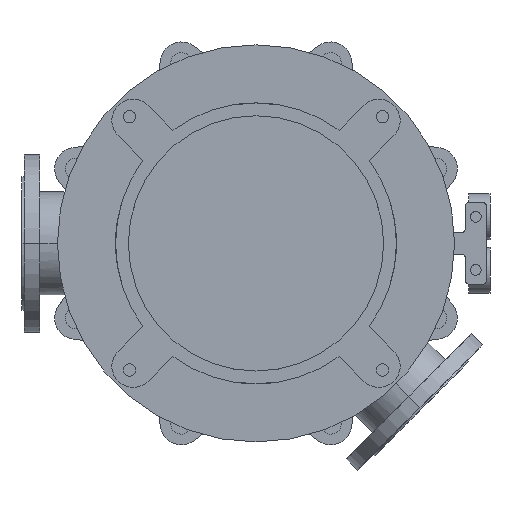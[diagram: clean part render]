
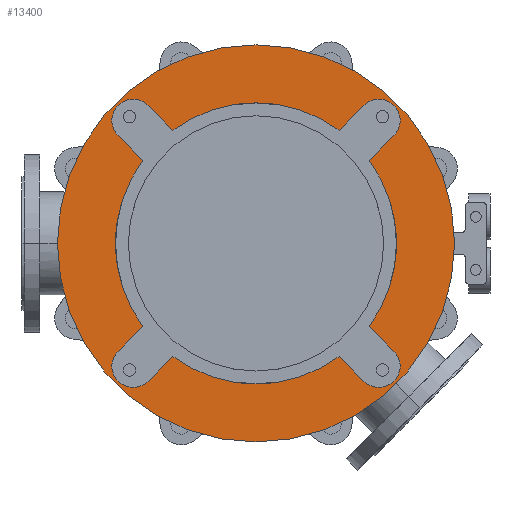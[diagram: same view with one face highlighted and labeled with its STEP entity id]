
A CAD part, front view. The second image highlights one B-rep face of the part: STEP entity #13400.
In plain terms, the highlighted planar face has unit normal (0, -1, 0).
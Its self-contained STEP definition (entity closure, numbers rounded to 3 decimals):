
#3014=CARTESIAN_POINT('',(0.,-25.,0.));
#3015=DIRECTION('',(0.,1.,0.));
#3016=DIRECTION('',(0.592,0.,-0.806));
#3017=AXIS2_PLACEMENT_3D('',#3014,#3015,#3016);
#3032=CARTESIAN_POINT('',(0.,-25.,0.));
#3033=DIRECTION('',(0.,1.,0.));
#3034=DIRECTION('',(0.806,0.,0.592));
#3035=AXIS2_PLACEMENT_3D('',#3032,#3033,#3034);
#3059=CARTESIAN_POINT('',(0.,-25.,0.));
#3060=DIRECTION('',(0.,1.,0.));
#3061=DIRECTION('',(-0.806,0.,-0.592));
#3062=AXIS2_PLACEMENT_3D('',#3059,#3060,#3061);
#3068=CARTESIAN_POINT('',(0.,-25.,0.));
#3069=DIRECTION('',(0.,1.,0.));
#3070=DIRECTION('',(-0.592,0.,0.806));
#3071=AXIS2_PLACEMENT_3D('',#3068,#3069,#3070);
#3246=CARTESIAN_POINT('',(0.,-25.,0.));
#3247=DIRECTION('',(0.,-1.,0.));
#3248=DIRECTION('',(-1.,0.,0.));
#3249=AXIS2_PLACEMENT_3D('',#3246,#3247,#3248);
#3251=CARTESIAN_POINT('',(0.,-25.,0.));
#3252=DIRECTION('',(0.,1.,0.));
#3253=DIRECTION('',(-1.,0.,0.));
#3254=AXIS2_PLACEMENT_3D('',#3251,#3252,#3253);
#3256=CARTESIAN_POINT('',(-173.241,-25.,173.241));
#3257=DIRECTION('',(0.,-1.,0.));
#3258=DIRECTION('',(0.707,0.,0.707));
#3259=AXIS2_PLACEMENT_3D('',#3256,#3257,#3258);
#3261=DIRECTION('',(0.707,0.,-0.707));
#3262=VECTOR('',#3261,49.286);
#3263=CARTESIAN_POINT('',(-194.454,-25.,152.028));
#3264=LINE('',#3263,#3262);
#3265=DIRECTION('',(-0.707,0.,-0.707));
#3266=VECTOR('',#3265,49.286);
#3267=CARTESIAN_POINT('',(-159.604,-25.,-117.178));
#3268=LINE('',#3267,#3266);
#3269=CARTESIAN_POINT('',(-173.241,-25.,-173.241));
#3270=DIRECTION('',(0.,-1.,0.));
#3271=DIRECTION('',(-0.707,0.,0.707));
#3272=AXIS2_PLACEMENT_3D('',#3269,#3270,#3271);
#3274=DIRECTION('',(0.707,0.,0.707));
#3275=VECTOR('',#3274,49.286);
#3276=CARTESIAN_POINT('',(-152.028,-25.,-194.454));
#3277=LINE('',#3276,#3275);
#3278=DIRECTION('',(0.707,0.,-0.707));
#3279=VECTOR('',#3278,49.286);
#3280=CARTESIAN_POINT('',(117.178,-25.,-159.604));
#3281=LINE('',#3280,#3279);
#3282=CARTESIAN_POINT('',(173.241,-25.,-173.241));
#3283=DIRECTION('',(0.,-1.,0.));
#3284=DIRECTION('',(-0.707,0.,-0.707));
#3285=AXIS2_PLACEMENT_3D('',#3282,#3283,#3284);
#3287=DIRECTION('',(-0.707,0.,0.707));
#3288=VECTOR('',#3287,49.286);
#3289=CARTESIAN_POINT('',(194.454,-25.,-152.028));
#3290=LINE('',#3289,#3288);
#3291=DIRECTION('',(0.707,0.,0.707));
#3292=VECTOR('',#3291,49.286);
#3293=CARTESIAN_POINT('',(159.604,-25.,117.178));
#3294=LINE('',#3293,#3292);
#3295=CARTESIAN_POINT('',(173.241,-25.,173.241));
#3296=DIRECTION('',(0.,-1.,0.));
#3297=DIRECTION('',(0.707,0.,-0.707));
#3298=AXIS2_PLACEMENT_3D('',#3295,#3296,#3297);
#3300=DIRECTION('',(-0.707,0.,-0.707));
#3301=VECTOR('',#3300,49.286);
#3302=CARTESIAN_POINT('',(152.028,-25.,194.454));
#3303=LINE('',#3302,#3301);
#3304=DIRECTION('',(-0.707,0.,0.707));
#3305=VECTOR('',#3304,49.286);
#3306=CARTESIAN_POINT('',(-117.178,-25.,159.604));
#3307=LINE('',#3306,#3305);
#8368=CARTESIAN_POINT('',(-280.,-25.,0.));
#8369=CARTESIAN_POINT('',(280.,-25.,0.));
#8370=VERTEX_POINT('',#8368);
#8371=VERTEX_POINT('',#8369);
#8392=CARTESIAN_POINT('',(-194.454,-25.,-152.028));
#8393=CARTESIAN_POINT('',(-152.028,-25.,-194.454));
#8394=VERTEX_POINT('',#8392);
#8395=VERTEX_POINT('',#8393);
#8396=CARTESIAN_POINT('',(-117.178,-25.,-159.604));
#8397=VERTEX_POINT('',#8396);
#8398=CARTESIAN_POINT('',(-159.604,-25.,-117.178));
#8399=VERTEX_POINT('',#8398);
#8408=CARTESIAN_POINT('',(152.028,-25.,-194.454));
#8409=CARTESIAN_POINT('',(194.454,-25.,-152.028));
#8410=VERTEX_POINT('',#8408);
#8411=VERTEX_POINT('',#8409);
#8412=CARTESIAN_POINT('',(159.604,-25.,-117.178));
#8413=VERTEX_POINT('',#8412);
#8414=CARTESIAN_POINT('',(117.178,-25.,-159.604));
#8415=VERTEX_POINT('',#8414);
#8424=CARTESIAN_POINT('',(194.454,-25.,152.028));
#8425=CARTESIAN_POINT('',(152.028,-25.,194.454));
#8426=VERTEX_POINT('',#8424);
#8427=VERTEX_POINT('',#8425);
#8428=CARTESIAN_POINT('',(117.178,-25.,159.604));
#8429=VERTEX_POINT('',#8428);
#8430=CARTESIAN_POINT('',(159.604,-25.,117.178));
#8431=VERTEX_POINT('',#8430);
#8440=CARTESIAN_POINT('',(-152.028,-25.,194.454));
#8441=CARTESIAN_POINT('',(-194.454,-25.,152.028));
#8442=VERTEX_POINT('',#8440);
#8443=VERTEX_POINT('',#8441);
#8444=CARTESIAN_POINT('',(-159.604,-25.,117.178));
#8445=VERTEX_POINT('',#8444);
#8446=CARTESIAN_POINT('',(-117.178,-25.,159.604));
#8447=VERTEX_POINT('',#8446);
#13360=CARTESIAN_POINT('',(0.,-25.,0.));
#13361=DIRECTION('',(0.,-1.,0.));
#13362=DIRECTION('',(-1.,0.,0.));
#13363=AXIS2_PLACEMENT_3D('',#13360,#13361,#13362);
#13364=PLANE('',#13363);
#13366=ORIENTED_EDGE('',*,*,#13365,.F.);
#13368=ORIENTED_EDGE('',*,*,#13367,.T.);
#13369=EDGE_LOOP('',(#13366,#13368));
#13370=FACE_OUTER_BOUND('',#13369,.F.);
#13372=ORIENTED_EDGE('',*,*,#13371,.T.);
#13374=ORIENTED_EDGE('',*,*,#13373,.T.);
#13375=ORIENTED_EDGE('',*,*,#13313,.F.);
#13377=ORIENTED_EDGE('',*,*,#13376,.T.);
#13379=ORIENTED_EDGE('',*,*,#13378,.T.);
#13381=ORIENTED_EDGE('',*,*,#13380,.T.);
#13382=ORIENTED_EDGE('',*,*,#13266,.F.);
#13383=ORIENTED_EDGE('',*,*,#13350,.T.);
#13385=ORIENTED_EDGE('',*,*,#13384,.T.);
#13387=ORIENTED_EDGE('',*,*,#13386,.T.);
#13388=ORIENTED_EDGE('',*,*,#13287,.F.);
#13390=ORIENTED_EDGE('',*,*,#13389,.T.);
#13392=ORIENTED_EDGE('',*,*,#13391,.T.);
#13394=ORIENTED_EDGE('',*,*,#13393,.T.);
#13395=ORIENTED_EDGE('',*,*,#13331,.F.);
#13397=ORIENTED_EDGE('',*,*,#13396,.T.);
#13398=EDGE_LOOP('',(#13372,#13374,#13375,#13377,#13379,#13381,#13382,#13383,
#13385,#13387,#13388,#13390,#13392,#13394,#13395,#13397));
#13399=FACE_BOUND('',#13398,.F.);
#13400=ADVANCED_FACE('',(#13370,#13399),#13364,.T.);
#3018=CIRCLE('',#3017,198.);
#3036=CIRCLE('',#3035,198.);
#3063=CIRCLE('',#3062,198.);
#3072=CIRCLE('',#3071,198.);
#3250=CIRCLE('',#3249,280.);
#3255=CIRCLE('',#3254,280.);
#3260=CIRCLE('',#3259,30.);
#3273=CIRCLE('',#3272,30.);
#3286=CIRCLE('',#3285,30.);
#3299=CIRCLE('',#3298,30.);
#13266=EDGE_CURVE('',#8415,#8397,#3018,.T.);
#13287=EDGE_CURVE('',#8431,#8413,#3036,.T.);
#13313=EDGE_CURVE('',#8399,#8445,#3063,.T.);
#13331=EDGE_CURVE('',#8447,#8429,#3072,.T.);
#13350=EDGE_CURVE('',#8415,#8410,#3281,.T.);
#13365=EDGE_CURVE('',#8370,#8371,#3250,.T.);
#13367=EDGE_CURVE('',#8370,#8371,#3255,.T.);
#13371=EDGE_CURVE('',#8442,#8443,#3260,.T.);
#13373=EDGE_CURVE('',#8443,#8445,#3264,.T.);
#13376=EDGE_CURVE('',#8399,#8394,#3268,.T.);
#13378=EDGE_CURVE('',#8394,#8395,#3273,.T.);
#13380=EDGE_CURVE('',#8395,#8397,#3277,.T.);
#13384=EDGE_CURVE('',#8410,#8411,#3286,.T.);
#13386=EDGE_CURVE('',#8411,#8413,#3290,.T.);
#13389=EDGE_CURVE('',#8431,#8426,#3294,.T.);
#13391=EDGE_CURVE('',#8426,#8427,#3299,.T.);
#13393=EDGE_CURVE('',#8427,#8429,#3303,.T.);
#13396=EDGE_CURVE('',#8447,#8442,#3307,.T.);
